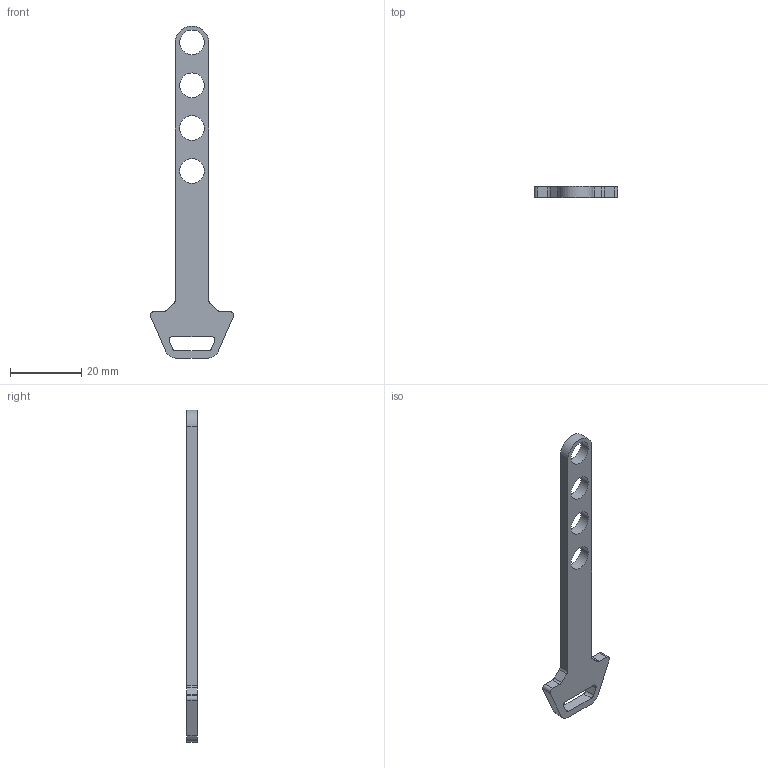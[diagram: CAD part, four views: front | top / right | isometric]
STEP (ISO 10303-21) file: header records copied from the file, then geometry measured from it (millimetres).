
FILE_DESCRIPTION((''),'2;1');
FILE_NAME('6050102027_ASM','2025-12-16T13:15:06',('Michael.Schwarz'),(''),'CREO PARAMETRIC BY PTC INC, 2022124','CREO PARAMETRIC BY PTC INC, 2022124','');
FILE_SCHEMA(('AUTOMOTIVE_DESIGN { 1 0 10303 214 1 1 1 1 }'));
Length unit declared in the file: millimetre
Products named in the file (3): 3112800420; 3111101421_ASM; 6050102027_ASM
Assembly tree (2 placements, depth 3):
  6050102027_ASM
    3111101421_ASM
      3112800420
Bounding box: 23.42 x 3 x 93 mm (x, y, z)
Volume: 2404.8 mm3; surface area: 2601.9 mm2
Topology: 1 solids, 1 shells, 36 faces, 102 edges, 68 vertices
Faces by surface type: cylinder 21, plane 15
Entity records: 1800 total; most frequent: DIRECTION 228, CARTESIAN_POINT 218, ORIENTED_EDGE 204, COLOUR_RGB 142, PRESENTATION_STYLE_ASSIGNMENT 103, STYLED_ITEM 103, CURVE_STYLE 102, EDGE_CURVE 102
